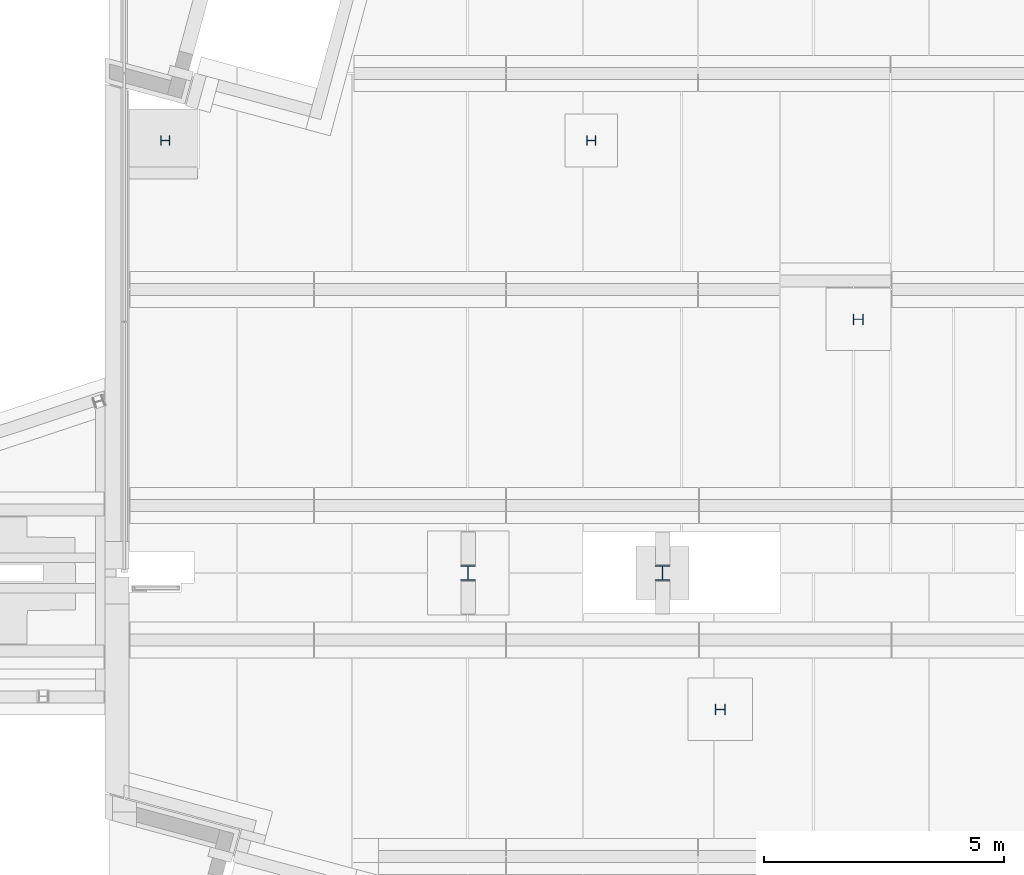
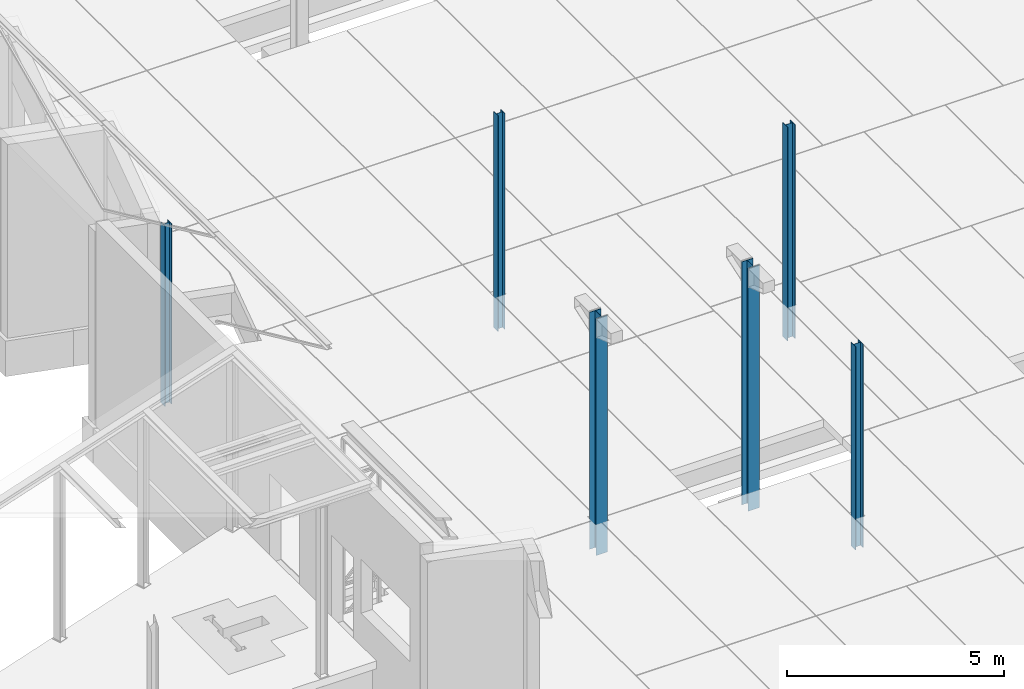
# One storey, part 20 of 59: 6 columns.
"""IFC2X3 building model written with IfcOpenShell, lengths in metres."""

from ifc_helpers import new_model, entity, si_unit, converted_unit, derived_unit, frame, origin, origin_with_axes, place, context, subcontext, project, spatial, polyline, outline, extrude, material, element, save


model = new_model("IFC2X3")

# Units and contexts
model_context = context("Model", 3, precision=1e-05, world=origin())
body_context = subcontext(model_context, "Body", "Model", "MODEL_VIEW")
ifc_project = project(units=[si_unit("LENGTHUNIT", "METRE"), si_unit("AREAUNIT", "SQUARE_METRE"), si_unit("VOLUMEUNIT", "CUBIC_METRE"), si_unit("MASSUNIT", "GRAM", prefix="KILO"), converted_unit("PLANEANGLEUNIT", "DEGREE", entity("IfcPlaneAngleMeasure", 0.0174532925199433), si_unit("PLANEANGLEUNIT", "RADIAN"), dimensions=[0, 0, 0, 0, 0, 0, 0]), derived_unit("THERMALTRANSMITTANCEUNIT", [(si_unit("POWERUNIT", "WATT"), 1), (si_unit("THERMODYNAMICTEMPERATUREUNIT", "KELVIN"), -1), (si_unit("LENGTHUNIT", "METRE"), -2)]), derived_unit("VOLUMETRICFLOWRATEUNIT", [(si_unit("LENGTHUNIT", "METRE"), 3), (converted_unit("TIMEUNIT", "hour", entity("IfcTimeMeasure", 3600.0), si_unit("TIMEUNIT", "SECOND"), dimensions=[0, 0, 1, 0, 0, 0, 0]), -1), (si_unit("LENGTHUNIT", "METRE"), -1)])], contexts=[model_context])

# Site, building, storey
site_placement = place(None, origin())
site = spatial("IfcSite", under=ifc_project, at=site_placement, Name="TWP_Speiseverteilzentrum SBW VZ II", CompositionType="ELEMENT")
building_placement = place(site_placement, origin())
building = spatial("IfcBuilding", under=site, at=building_placement, Name="Speiseverteilzentrum SBW VZ II", CompositionType="ELEMENT")
storey_placement = place(building_placement, frame((0.0, 0.0, 1.7307)))
storey = spatial("IfcBuildingStorey", under=building, at=storey_placement, Name="EG_Produktion_FFB", CompositionType="ELEMENT", Elevation=1.7307)

# Columns
ifc_material_1 = material(Name="S235")
column_1_placement = place(storey_placement, frame((19.2699133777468, 39.6998118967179, -1.25)))
element("IfcColumn", 1, at=column_1_placement, inside=storey, material=ifc_material_1, Name="Stahlstütze", context=body_context, shape_type="SweptSolid", body=[
    extrude(outline(polyline([(0.19, 0.0), (0.19, 0.2), (0.18, 0.2), (0.18, 0.10325), (0.01, 0.10325), (0.01, 0.2), (0.0, 0.2), (0.0, 0.0), (0.01, 0.0), (0.01, 0.09675), (0.18, 0.09675), (0.18, 0.0), (0.19, 0.0)])), origin_with_axes(), (0.0, 0.0, 1.0), 6.07),
])
ifc_material_2 = material(Name="S235")
column_2_placement = place(storey_placement, frame((10.3999999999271, 39.6998118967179, -0.25)))
element("IfcColumn", 2, at=column_2_placement, inside=storey, material=ifc_material_2, Name="Stahlstütze", context=body_context, shape_type="SweptSolid", body=[
    extrude(outline(polyline([(0.19, 0.0), (0.19, 0.2), (0.18, 0.2), (0.18, 0.10325), (0.01, 0.10325), (0.01, 0.2), (0.0, 0.2), (0.0, 0.0), (0.01, 0.0), (0.01, 0.09675), (0.18, 0.09675), (0.18, 0.0), (0.19, 0.0)])), origin_with_axes(), (0.0, 0.0, 1.0), 5.07),
])
ifc_material_3 = material(Name="S235")
column_3_placement = place(storey_placement, frame((16.6523755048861, 30.6451031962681, -1.15)))
element("IfcColumn", 3, at=column_3_placement, inside=storey, material=ifc_material_3, Name="Stahlstütze", context=body_context, shape_type="SweptSolid", body=[
    extrude(outline(polyline([(0.0, 0.0), (0.3, 0.0), (0.3, 0.0155), (0.1545, 0.0155), (0.1545, 0.2945), (0.3, 0.2945), (0.3, 0.31), (0.0, 0.31), (0.0, 0.2945), (0.1455, 0.2945), (0.1455, 0.0155), (0.0, 0.0155), (0.0, 0.0)])), origin_with_axes(), (0.0, 0.0, 1.0), 6.6693),
])
ifc_material_4 = material(Name="S235")
column_4_placement = place(storey_placement, frame((21.9450000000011, 27.8499286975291, -1.15)))
element("IfcColumn", 4, at=column_4_placement, inside=storey, material=ifc_material_4, Name="Stahlstütze", context=body_context, shape_type="SweptSolid", body=[
    extrude(outline(polyline([(0.21, 0.0), (0.21, 0.22), (0.199, 0.22), (0.199, 0.1135), (0.011, 0.1135), (0.011, 0.22), (0.0, 0.22), (0.0, 0.0), (0.011, 0.0), (0.011, 0.1065), (0.199, 0.1065), (0.199, 0.0), (0.21, 0.0)])), origin_with_axes(), (0.0, 0.0, 1.0), 5.72),
])
ifc_material_5 = material(Name="S235")
column_5_placement = place(storey_placement, frame((24.8198606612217, 35.9698478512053, -1.2)))
element("IfcColumn", 5, at=column_5_placement, inside=storey, material=ifc_material_5, Name="Stahlstütze", context=body_context, shape_type="SweptSolid", body=[
    extrude(outline(polyline([(0.21, 0.0), (0.21, 0.22), (0.199, 0.22), (0.199, 0.1135), (0.011, 0.1135), (0.011, 0.22), (0.0, 0.22), (0.0, 0.0), (0.011, 0.0), (0.011, 0.1065), (0.199, 0.1065), (0.199, 0.0), (0.21, 0.0)])), origin_with_axes(), (0.0, 0.0, 1.0), 6.02),
])
ifc_material_6 = material(Name="S235")
column_6_placement = place(storey_placement, frame((20.7000000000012, 30.6451031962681, -1.32)))
element("IfcColumn", 6, at=column_6_placement, inside=storey, material=ifc_material_6, Name="Stahlstütze", context=body_context, shape_type="SweptSolid", body=[
    extrude(outline(polyline([(0.0, 0.0), (0.3, 0.0), (0.3, 0.0155), (0.1545, 0.0155), (0.1545, 0.2945), (0.3, 0.2945), (0.3, 0.31), (0.0, 0.31), (0.0, 0.2945), (0.1455, 0.2945), (0.1455, 0.0155), (0.0, 0.0155), (0.0, 0.0)])), origin_with_axes(), (0.0, 0.0, 1.0), 6.8393),
])

save(model, "model.ifc")
